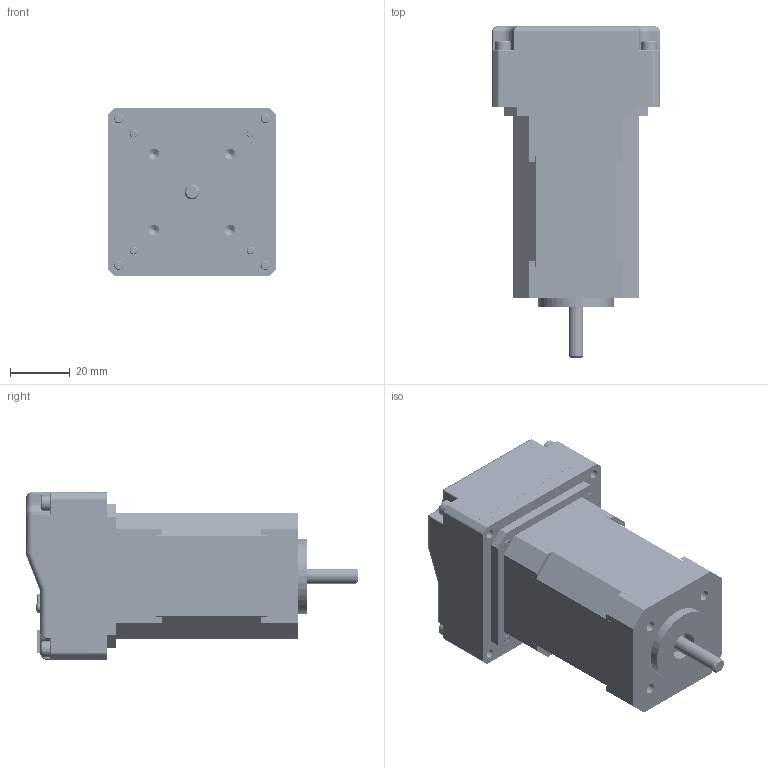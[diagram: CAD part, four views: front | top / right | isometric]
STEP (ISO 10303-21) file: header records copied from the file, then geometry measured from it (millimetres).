
FILE_DESCRIPTION((''),'2;1');
FILE_NAME('DM4D1_NEMA17_ASM','2020-07-29T09:26:52',('Matteo Maccalli'),(''),'CREO PARAMETRIC BY PTC INC, 2019344','CREO PARAMETRIC BY PTC INC, 2019344','');
FILE_SCHEMA(('AUTOMOTIVE_DESIGN { 1 0 10303 214 1 1 1 1 }'));
Products named in the file (90): FRONT_FLANGE_MT17FB; STACK_MT17FB24106M3; REAR_FLANGE_MT17FB; FRONT_SHAFT_MT17FB; MT17FB24106M3_ASM; LMED5067_FLANGE_B; M3X30_SVASATA_CROCE; CONTROFLANGIA_DM4D1; MC-01040; BOARD_1_2_3; BODY_1_2_3; PINSARRAYLR_1_1_2_3; PINSARRAYLR_2_1_2_3; PINSARRAYLR_3_1_2_3; PINSARRAYLR_4_1_2_3; PINSARRAYLR_ASM_1_2_3_ASM; ASSEMBLY_ASM_1_2_3_ASM; GDH02S04-CONDIP_1_2_3_ASM; DIP1_1_2_3_ASM; LFPAK33_SOT1210_NXP_1_2_3; Q304_1_2_3_ASM; MCV1_5-3-G_3_5_1_2_3; PXC_1843619_03_MCV-1-5-3-G-3-_2_ASM; CN5_1_2_3_ASM; 1781120_1_2_3; CN3_1_2_3_ASM; 50229_1_2_3; CN1_1_2_3_ASM; SCE-D8_1_2_3_4_5_6_1; SCE-D8_1_2_3_4_5_6_2; SCE-D8_1_2_3_4_5_6_3; SCE-D8_1_2_3_4_5_6_4; SCE-D8_1_2_3_4_5_6_5; SCE-D8_1_2_3_4_5_6_ASM; CE200_1_2_3_ASM; XTAL_SMD_5X3E2_1_2_3; XT400_1_2_3_ASM; EXTRUDED_1_2_3; 844424768_1_2_3_ASM; W600_1_2_3_ASM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
Assembly tree (165 placements, depth 8):
  DM4D1_NEMA17_ASM
    MT17FB24106M3_ASM
      FRONT_FLANGE_MT17FB
      STACK_MT17FB24106M3
      REAR_FLANGE_MT17FB
      FRONT_SHAFT_MT17FB
    LMED5067_FLANGE_B
    M3X30_SVASATA_CROCE  x4
    CONTROFLANGIA_DM4D1
    MC-01040
    ASM0002_ASM
      PCB_1_2_3_ASM
        BOARD_1_2_3
        DIP1_1_2_3_ASM
          GDH02S04-CONDIP_1_2_3_ASM
            ASSEMBLY_ASM_1_2_3_ASM
              BODY_1_2_3
              PINSARRAYLR_ASM_1_2_3_ASM
                PINSARRAYLR_1_1_2_3
                PINSARRAYLR_2_1_2_3
                PINSARRAYLR_3_1_2_3
                PINSARRAYLR_4_1_2_3
        Q304_1_2_3_ASM
          LFPAK33_SOT1210_NXP_1_2_3
        CN5_1_2_3_ASM
          PXC_1843619_03_MCV-1-5-3-G-3-_2_ASM
            MCV1_5-3-G_3_5_1_2_3
        CN3_1_2_3_ASM
          1781120_1_2_3
        CN1_1_2_3_ASM
          50229_1_2_3
        CE200_1_2_3_ASM
          SCE-D8_1_2_3_4_5_6_ASM
            SCE-D8_1_2_3_4_5_6_1
            SCE-D8_1_2_3_4_5_6_2
            SCE-D8_1_2_3_4_5_6_3
            SCE-D8_1_2_3_4_5_6_4
            SCE-D8_1_2_3_4_5_6_5
        XT400_1_2_3_ASM
          XTAL_SMD_5X3E2_1_2_3
        W600_1_2_3_ASM
          844424768_1_2_3_ASM
            EXTRUDED_1_2_3
        U700_1_2_3_ASM
          PG-DSO-8-7_1_2_3_4_5_6_ASM
            PG-DSO-8-7_1_2_3_4_5_6_1
            PG-DSO-8-7_1_2_3_4_5_6_2
            PG-DSO-8-7_1_2_3_4_5_6_3
            PG-DSO-8-7_1_2_3_4_5_6_4
            PG-DSO-8-7_1_2_3_4_5_6_5
            PG-DSO-8-7_1_2_3_4_5_6_6
            PG-DSO-8-7_1_2_3_4_5_6_7
            PG-DSO-8-7_1_2_3_4_5_6_8
            PG-DSO-8-7_1_2_3_4_5_6_9
            PG-DSO-8-7_1_2_3_4_5_6_10
            PG-DSO-8-7_1_2_3_4_5_6_11
            PG-DSO-8-7_1_2_3_4_5_6_12
            PG-DSO-8-7_1_2_3_4_5_6_13
            PG-DSO-8-7_1_2_3_4_5_6_14
            PG-DSO-8-7_1_2_3_4_5_6_15
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Bounding box: 56 x 111 x 56 mm (x, y, z)
Volume: 143294.2 mm3; surface area: 64391.4 mm2
Topology: 143 solids, 155 shells, 7030 faces, 17473 edges, 10377 vertices
Faces by surface type: plane 2877, cylinder 2733, sphere 600, torus 580, bspline 161, cone 76, extrusion 3
Entity records: 145481 total; most frequent: CARTESIAN_POINT 31607, ORIENTED_EDGE 16464, DIRECTION 16354, PRESENTATION_STYLE_ASSIGNMENT 8431, EDGE_CURVE 8256, STYLED_ITEM 7537, CURVE_STYLE 7312, VECTOR 6158
